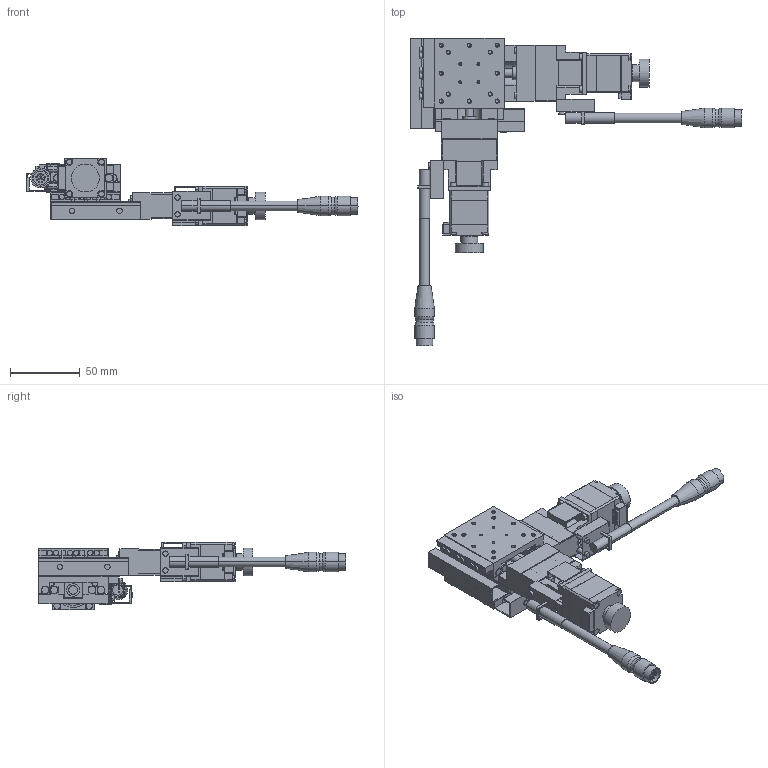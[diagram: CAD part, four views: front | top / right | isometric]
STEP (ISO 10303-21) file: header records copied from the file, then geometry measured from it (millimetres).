
FILE_DESCRIPTION(('STEP AP203'),'1');
FILE_NAME('C:/3D-Trans/3D_PMG513T-R□-E4+240122.step','2024-03-14T05:39:20',(' '),(' '),'Spatial InterOp 3D',' ',' ');
FILE_SCHEMA(('CONFIG_CONTROL_DESIGN'));
Length unit declared in the file: millimetre
Products named in the file (12): 1; 2; 3; 4; 5; 6; 7; 8; 9; 10; 11; 12
Bounding box: 237.4 x 220 x 48 mm (x, y, z)
Volume: 208574 mm3; surface area: 104733.1 mm2
Topology: 12 solids, 12 shells, 1540 faces, 3888 edges, 2472 vertices
Faces by surface type: plane 858, cylinder 516, cone 164, extrusion 2
Entity records: 47134 total; most frequent: CARTESIAN_POINT 8580, DIRECTION 8168, ORIENTED_EDGE 7696, EDGE_CURVE 3848, AXIS2_PLACEMENT_3D 2812, VECTOR 2544, LINE 2542, VERTEX_POINT 2472
